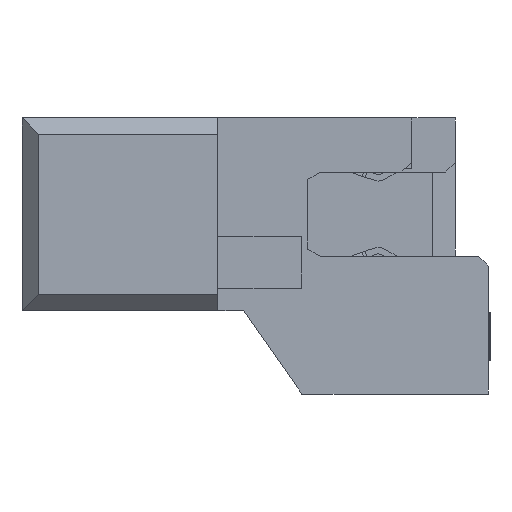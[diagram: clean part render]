
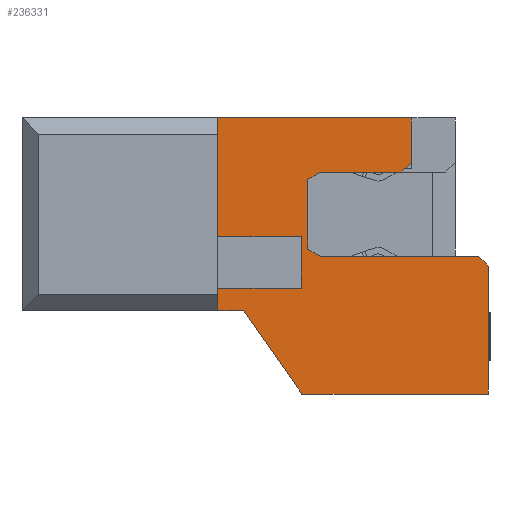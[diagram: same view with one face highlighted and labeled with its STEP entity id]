
A CAD part, left-side view. The second image highlights one B-rep face of the part: STEP entity #236331.
In plain terms, the highlighted planar face has unit normal (-1, 0, 0).
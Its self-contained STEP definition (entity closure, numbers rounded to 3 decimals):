
#3289=DIRECTION('',(0.,-1.,0.));
#3290=VECTOR('',#3289,6.03);
#3291=CARTESIAN_POINT('',(-36.5,2.8,3.));
#3292=LINE('',#3291,#3290);
#5604=DIRECTION('',(0.,-0.574,-0.819));
#5605=VECTOR('',#5604,3.174);
#5606=CARTESIAN_POINT('',(-36.5,2.,-3.));
#5607=LINE('',#5606,#5605);
#5611=DIRECTION('',(0.,-1.,0.));
#5612=VECTOR('',#5611,0.8);
#5613=CARTESIAN_POINT('',(-36.5,2.8,-3.));
#5614=LINE('',#5613,#5612);
#5618=DIRECTION('',(0.,0.,-1.));
#5619=VECTOR('',#5618,0.7);
#5620=CARTESIAN_POINT('',(-36.5,2.8,-2.3));
#5621=LINE('',#5620,#5619);
#5625=DIRECTION('',(0.,1.,0.));
#5626=VECTOR('',#5625,2.6);
#5627=CARTESIAN_POINT('',(-36.5,0.2,-2.3));
#5628=LINE('',#5627,#5626);
#5632=DIRECTION('',(0.,0.,-1.));
#5633=VECTOR('',#5632,1.6);
#5634=CARTESIAN_POINT('',(-36.5,0.2,-0.7));
#5635=LINE('',#5634,#5633);
#5639=DIRECTION('',(0.,-1.,0.));
#5640=VECTOR('',#5639,2.6);
#5641=CARTESIAN_POINT('',(-36.5,2.8,-0.7));
#5642=LINE('',#5641,#5640);
#5646=DIRECTION('',(0.,0.,-1.));
#5647=VECTOR('',#5646,3.7);
#5648=CARTESIAN_POINT('',(-36.5,2.8,3.));
#5649=LINE('',#5648,#5647);
#5653=DIRECTION('',(0.,0.,1.));
#5654=VECTOR('',#5653,1.385);
#5655=CARTESIAN_POINT('',(-36.5,-3.23,1.615));
#5656=LINE('',#5655,#5654);
#5660=DIRECTION('',(0.,-0.707,0.707));
#5661=VECTOR('',#5660,0.424);
#5662=CARTESIAN_POINT('',(-36.5,-2.93,1.315));
#5663=LINE('',#5662,#5661);
#5667=DIRECTION('',(0.,-1.,0.));
#5668=VECTOR('',#5667,2.53);
#5669=CARTESIAN_POINT('',(-36.5,-0.4,1.315));
#5670=LINE('',#5669,#5668);
#5674=DIRECTION('',(0.,-0.866,0.5));
#5675=VECTOR('',#5674,0.462);
#5676=CARTESIAN_POINT('',(-36.5,0.,1.084));
#5677=LINE('',#5676,#5675);
#5681=DIRECTION('',(0.,0.,1.));
#5682=VECTOR('',#5681,2.168);
#5683=CARTESIAN_POINT('',(-36.5,0.,-1.084));
#5684=LINE('',#5683,#5682);
#5688=DIRECTION('',(0.,0.866,0.5));
#5689=VECTOR('',#5688,0.462);
#5690=CARTESIAN_POINT('',(-36.5,-0.4,-1.315));
#5691=LINE('',#5690,#5689);
#5695=DIRECTION('',(0.,1.,0.));
#5696=VECTOR('',#5695,4.93);
#5697=CARTESIAN_POINT('',(-36.5,-5.33,-1.315));
#5698=LINE('',#5697,#5696);
#5702=DIRECTION('',(0.,0.707,0.707));
#5703=VECTOR('',#5702,0.424);
#5704=CARTESIAN_POINT('',(-36.5,-5.63,-1.615));
#5705=LINE('',#5704,#5703);
#5709=DIRECTION('',(0.,0.,1.));
#5710=VECTOR('',#5709,3.985);
#5711=CARTESIAN_POINT('',(-36.5,-5.63,-5.6));
#5712=LINE('',#5711,#5710);
#5716=DIRECTION('',(0.,-1.,0.));
#5717=VECTOR('',#5716,5.809);
#5718=CARTESIAN_POINT('',(-36.5,0.179,-5.6));
#5719=LINE('',#5718,#5717);
#229796=CARTESIAN_POINT('',(-36.5,-0.4,-1.315));
#229798=VERTEX_POINT('',#229796);
#229821=CARTESIAN_POINT('',(-36.5,0.,1.084));
#229822=CARTESIAN_POINT('',(-36.5,-0.4,1.315));
#229823=VERTEX_POINT('',#229821);
#229824=VERTEX_POINT('',#229822);
#229843=CARTESIAN_POINT('',(-36.5,0.,-1.084));
#229845=VERTEX_POINT('',#229843);
#229871=CARTESIAN_POINT('',(-36.5,-5.33,-1.315));
#229873=VERTEX_POINT('',#229871);
#229939=CARTESIAN_POINT('',(-36.5,-5.63,-1.615));
#229940=VERTEX_POINT('',#229939);
#230655=CARTESIAN_POINT('',(-36.5,-5.63,-5.6));
#230656=VERTEX_POINT('',#230655);
#230660=CARTESIAN_POINT('',(-36.5,2.8,-0.7));
#230661=VERTEX_POINT('',#230660);
#230666=CARTESIAN_POINT('',(-36.5,0.2,-0.7));
#230667=VERTEX_POINT('',#230666);
#230672=CARTESIAN_POINT('',(-36.5,0.179,-5.6));
#230673=VERTEX_POINT('',#230672);
#230696=CARTESIAN_POINT('',(-36.5,2.,-3.));
#230697=VERTEX_POINT('',#230696);
#230715=CARTESIAN_POINT('',(-36.5,-2.93,1.315));
#230717=VERTEX_POINT('',#230715);
#230738=CARTESIAN_POINT('',(-36.5,-3.23,1.615));
#230740=VERTEX_POINT('',#230738);
#230742=CARTESIAN_POINT('',(-36.5,-3.23,3.));
#230743=VERTEX_POINT('',#230742);
#230753=CARTESIAN_POINT('',(-36.5,2.8,3.));
#230754=VERTEX_POINT('',#230753);
#230784=CARTESIAN_POINT('',(-36.5,0.2,-2.3));
#230785=CARTESIAN_POINT('',(-36.5,2.8,-2.3));
#230786=VERTEX_POINT('',#230784);
#230787=VERTEX_POINT('',#230785);
#230883=CARTESIAN_POINT('',(-36.5,2.8,-3.));
#230884=VERTEX_POINT('',#230883);
#236291=CARTESIAN_POINT('',(-36.5,2.8,12.822));
#236292=DIRECTION('',(1.,0.,0.));
#236293=DIRECTION('',(0.,0.,-1.));
#236294=AXIS2_PLACEMENT_3D('',#236291,#236292,#236293);
#236295=PLANE('',#236294);
#236296=ORIENTED_EDGE('',*,*,#236283,.F.);
#236297=ORIENTED_EDGE('',*,*,#235985,.F.);
#236299=ORIENTED_EDGE('',*,*,#236298,.F.);
#236301=ORIENTED_EDGE('',*,*,#236300,.F.);
#236303=ORIENTED_EDGE('',*,*,#236302,.F.);
#236305=ORIENTED_EDGE('',*,*,#236304,.F.);
#236307=ORIENTED_EDGE('',*,*,#236306,.F.);
#236308=ORIENTED_EDGE('',*,*,#235292,.T.);
#236310=ORIENTED_EDGE('',*,*,#236309,.F.);
#236312=ORIENTED_EDGE('',*,*,#236311,.F.);
#236314=ORIENTED_EDGE('',*,*,#236313,.F.);
#236316=ORIENTED_EDGE('',*,*,#236315,.F.);
#236318=ORIENTED_EDGE('',*,*,#236317,.F.);
#236320=ORIENTED_EDGE('',*,*,#236319,.F.);
#236322=ORIENTED_EDGE('',*,*,#236321,.F.);
#236324=ORIENTED_EDGE('',*,*,#236323,.F.);
#236326=ORIENTED_EDGE('',*,*,#236325,.F.);
#236328=ORIENTED_EDGE('',*,*,#236327,.F.);
#236329=EDGE_LOOP('',(#236296,#236297,#236299,#236301,#236303,#236305,#236307,
#236308,#236310,#236312,#236314,#236316,#236318,#236320,#236322,#236324,#236326,
#236328));
#236330=FACE_OUTER_BOUND('',#236329,.F.);
#235292=EDGE_CURVE('',#230754,#230743,#3292,.T.);
#235985=EDGE_CURVE('',#230884,#230697,#5614,.T.);
#236283=EDGE_CURVE('',#230697,#230673,#5607,.T.);
#236298=EDGE_CURVE('',#230787,#230884,#5621,.T.);
#236300=EDGE_CURVE('',#230786,#230787,#5628,.T.);
#236302=EDGE_CURVE('',#230667,#230786,#5635,.T.);
#236304=EDGE_CURVE('',#230661,#230667,#5642,.T.);
#236306=EDGE_CURVE('',#230754,#230661,#5649,.T.);
#236309=EDGE_CURVE('',#230740,#230743,#5656,.T.);
#236311=EDGE_CURVE('',#230717,#230740,#5663,.T.);
#236313=EDGE_CURVE('',#229824,#230717,#5670,.T.);
#236315=EDGE_CURVE('',#229823,#229824,#5677,.T.);
#236317=EDGE_CURVE('',#229845,#229823,#5684,.T.);
#236319=EDGE_CURVE('',#229798,#229845,#5691,.T.);
#236321=EDGE_CURVE('',#229873,#229798,#5698,.T.);
#236323=EDGE_CURVE('',#229940,#229873,#5705,.T.);
#236325=EDGE_CURVE('',#230656,#229940,#5712,.T.);
#236327=EDGE_CURVE('',#230673,#230656,#5719,.T.);
#236331=ADVANCED_FACE('',(#236330),#236295,.F.);
